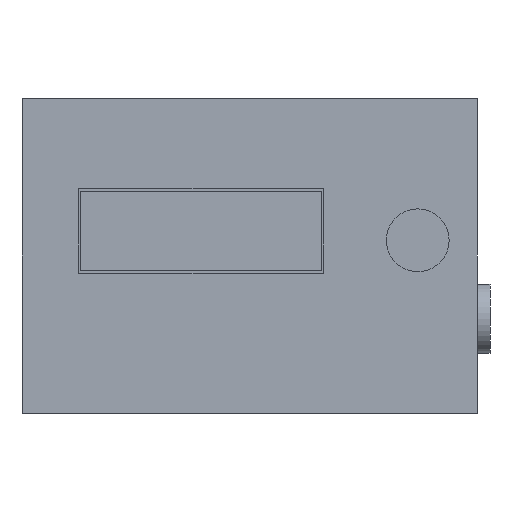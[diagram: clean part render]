
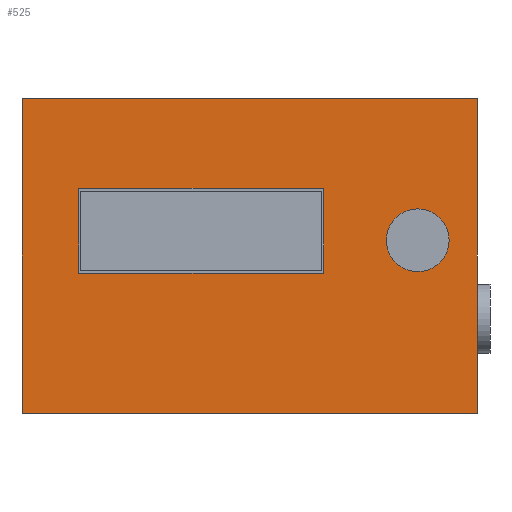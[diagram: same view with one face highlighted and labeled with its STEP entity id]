
A CAD part, front view. The second image highlights one B-rep face of the part: STEP entity #525.
In plain terms, the highlighted planar face has unit normal (0, -1, 0).
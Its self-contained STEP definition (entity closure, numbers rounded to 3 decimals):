
#295 = EDGE_CURVE('',#296,#298,#300,.T.);
#296 = VERTEX_POINT('',#297);
#297 = CARTESIAN_POINT('',(0.,0.,0.));
#298 = VERTEX_POINT('',#299);
#299 = CARTESIAN_POINT('',(0.,0.,100.));
#300 = SURFACE_CURVE('',#301,(#305,#317),.PCURVE_S1.);
#301 = LINE('',#302,#303);
#302 = CARTESIAN_POINT('',(0.,0.,0.));
#303 = VECTOR('',#304,1.);
#304 = DIRECTION('',(0.,0.,1.));
#305 = PCURVE('',#306,#311);
#306 = PLANE('',#307);
#307 = AXIS2_PLACEMENT_3D('',#308,#309,#310);
#308 = CARTESIAN_POINT('',(0.,0.,0.));
#309 = DIRECTION('',(1.,0.,0.));
#310 = DIRECTION('',(0.,0.,1.));
#311 = DEFINITIONAL_REPRESENTATION('',(#312),#316);
#312 = LINE('',#313,#314);
#313 = CARTESIAN_POINT('',(0.,0.));
#314 = VECTOR('',#315,1.);
#315 = DIRECTION('',(1.,0.));
#316 = ( GEOMETRIC_REPRESENTATION_CONTEXT(2) 
PARAMETRIC_REPRESENTATION_CONTEXT() REPRESENTATION_CONTEXT('2D SPACE',''
  ) );
#317 = PCURVE('',#318,#323);
#318 = PLANE('',#319);
#319 = AXIS2_PLACEMENT_3D('',#320,#321,#322);
#320 = CARTESIAN_POINT('',(0.,0.,0.));
#321 = DIRECTION('',(0.,1.,0.));
#322 = DIRECTION('',(0.,0.,1.));
#323 = DEFINITIONAL_REPRESENTATION('',(#324),#328);
#324 = LINE('',#325,#326);
#325 = CARTESIAN_POINT('',(0.,0.));
#326 = VECTOR('',#327,1.);
#327 = DIRECTION('',(1.,0.));
#328 = ( GEOMETRIC_REPRESENTATION_CONTEXT(2) 
PARAMETRIC_REPRESENTATION_CONTEXT() REPRESENTATION_CONTEXT('2D SPACE',''
  ) );
#346 = PLANE('',#347);
#347 = AXIS2_PLACEMENT_3D('',#348,#349,#350);
#348 = CARTESIAN_POINT('',(0.,0.,0.));
#349 = DIRECTION('',(0.,0.,1.));
#350 = DIRECTION('',(1.,0.,0.));
#400 = PLANE('',#401);
#401 = AXIS2_PLACEMENT_3D('',#402,#403,#404);
#402 = CARTESIAN_POINT('',(0.,0.,100.));
#403 = DIRECTION('',(0.,0.,1.));
#404 = DIRECTION('',(1.,0.,0.));
#525 = ADVANCED_FACE('',(#526,#601,#715),#318,.F.);
#526 = FACE_BOUND('',#527,.F.);
#527 = EDGE_LOOP('',(#528,#551,#552,#575));
#528 = ORIENTED_EDGE('',*,*,#529,.F.);
#529 = EDGE_CURVE('',#296,#530,#532,.T.);
#530 = VERTEX_POINT('',#531);
#531 = CARTESIAN_POINT('',(145.,0.,0.));
#532 = SURFACE_CURVE('',#533,(#537,#544),.PCURVE_S1.);
#533 = LINE('',#534,#535);
#534 = CARTESIAN_POINT('',(0.,0.,0.));
#535 = VECTOR('',#536,1.);
#536 = DIRECTION('',(1.,0.,0.));
#537 = PCURVE('',#318,#538);
#538 = DEFINITIONAL_REPRESENTATION('',(#539),#543);
#539 = LINE('',#540,#541);
#540 = CARTESIAN_POINT('',(0.,0.));
#541 = VECTOR('',#542,1.);
#542 = DIRECTION('',(0.,1.));
#543 = ( GEOMETRIC_REPRESENTATION_CONTEXT(2) 
PARAMETRIC_REPRESENTATION_CONTEXT() REPRESENTATION_CONTEXT('2D SPACE',''
  ) );
#544 = PCURVE('',#346,#545);
#545 = DEFINITIONAL_REPRESENTATION('',(#546),#550);
#546 = LINE('',#547,#548);
#547 = CARTESIAN_POINT('',(0.,0.));
#548 = VECTOR('',#549,1.);
#549 = DIRECTION('',(1.,0.));
#550 = ( GEOMETRIC_REPRESENTATION_CONTEXT(2) 
PARAMETRIC_REPRESENTATION_CONTEXT() REPRESENTATION_CONTEXT('2D SPACE',''
  ) );
#551 = ORIENTED_EDGE('',*,*,#295,.T.);
#552 = ORIENTED_EDGE('',*,*,#553,.T.);
#553 = EDGE_CURVE('',#298,#554,#556,.T.);
#554 = VERTEX_POINT('',#555);
#555 = CARTESIAN_POINT('',(145.,0.,100.));
#556 = SURFACE_CURVE('',#557,(#561,#568),.PCURVE_S1.);
#557 = LINE('',#558,#559);
#558 = CARTESIAN_POINT('',(0.,0.,100.));
#559 = VECTOR('',#560,1.);
#560 = DIRECTION('',(1.,0.,0.));
#561 = PCURVE('',#318,#562);
#562 = DEFINITIONAL_REPRESENTATION('',(#563),#567);
#563 = LINE('',#564,#565);
#564 = CARTESIAN_POINT('',(100.,0.));
#565 = VECTOR('',#566,1.);
#566 = DIRECTION('',(0.,1.));
#567 = ( GEOMETRIC_REPRESENTATION_CONTEXT(2) 
PARAMETRIC_REPRESENTATION_CONTEXT() REPRESENTATION_CONTEXT('2D SPACE',''
  ) );
#568 = PCURVE('',#400,#569);
#569 = DEFINITIONAL_REPRESENTATION('',(#570),#574);
#570 = LINE('',#571,#572);
#571 = CARTESIAN_POINT('',(0.,0.));
#572 = VECTOR('',#573,1.);
#573 = DIRECTION('',(1.,0.));
#574 = ( GEOMETRIC_REPRESENTATION_CONTEXT(2) 
PARAMETRIC_REPRESENTATION_CONTEXT() REPRESENTATION_CONTEXT('2D SPACE',''
  ) );
#575 = ORIENTED_EDGE('',*,*,#576,.F.);
#576 = EDGE_CURVE('',#530,#554,#577,.T.);
#577 = SURFACE_CURVE('',#578,(#582,#589),.PCURVE_S1.);
#578 = LINE('',#579,#580);
#579 = CARTESIAN_POINT('',(145.,0.,0.));
#580 = VECTOR('',#581,1.);
#581 = DIRECTION('',(0.,0.,1.));
#582 = PCURVE('',#318,#583);
#583 = DEFINITIONAL_REPRESENTATION('',(#584),#588);
#584 = LINE('',#585,#586);
#585 = CARTESIAN_POINT('',(0.,145.));
#586 = VECTOR('',#587,1.);
#587 = DIRECTION('',(1.,0.));
#588 = ( GEOMETRIC_REPRESENTATION_CONTEXT(2) 
PARAMETRIC_REPRESENTATION_CONTEXT() REPRESENTATION_CONTEXT('2D SPACE',''
  ) );
#589 = PCURVE('',#590,#595);
#590 = PLANE('',#591);
#591 = AXIS2_PLACEMENT_3D('',#592,#593,#594);
#592 = CARTESIAN_POINT('',(145.,0.,0.));
#593 = DIRECTION('',(1.,0.,0.));
#594 = DIRECTION('',(0.,0.,1.));
#595 = DEFINITIONAL_REPRESENTATION('',(#596),#600);
#596 = LINE('',#597,#598);
#597 = CARTESIAN_POINT('',(0.,0.));
#598 = VECTOR('',#599,1.);
#599 = DIRECTION('',(1.,0.));
#600 = ( GEOMETRIC_REPRESENTATION_CONTEXT(2) 
PARAMETRIC_REPRESENTATION_CONTEXT() REPRESENTATION_CONTEXT('2D SPACE',''
  ) );
#601 = FACE_BOUND('',#602,.F.);
#602 = EDGE_LOOP('',(#603,#633,#661,#689));
#603 = ORIENTED_EDGE('',*,*,#604,.F.);
#604 = EDGE_CURVE('',#605,#607,#609,.T.);
#605 = VERTEX_POINT('',#606);
#606 = CARTESIAN_POINT('',(18.,0.,71.5));
#607 = VERTEX_POINT('',#608);
#608 = CARTESIAN_POINT('',(96.,0.,71.5));
#609 = SURFACE_CURVE('',#610,(#614,#621),.PCURVE_S1.);
#610 = LINE('',#611,#612);
#611 = CARTESIAN_POINT('',(9.,0.,71.5));
#612 = VECTOR('',#613,1.);
#613 = DIRECTION('',(1.,0.,0.));
#614 = PCURVE('',#318,#615);
#615 = DEFINITIONAL_REPRESENTATION('',(#616),#620);
#616 = LINE('',#617,#618);
#617 = CARTESIAN_POINT('',(71.5,9.));
#618 = VECTOR('',#619,1.);
#619 = DIRECTION('',(0.,1.));
#620 = ( GEOMETRIC_REPRESENTATION_CONTEXT(2) 
PARAMETRIC_REPRESENTATION_CONTEXT() REPRESENTATION_CONTEXT('2D SPACE',''
  ) );
#621 = PCURVE('',#622,#627);
#622 = PLANE('',#623);
#623 = AXIS2_PLACEMENT_3D('',#624,#625,#626);
#624 = CARTESIAN_POINT('',(18.,-0.1,71.5));
#625 = DIRECTION('',(0.,0.,1.));
#626 = DIRECTION('',(1.,0.,0.));
#627 = DEFINITIONAL_REPRESENTATION('',(#628),#632);
#628 = LINE('',#629,#630);
#629 = CARTESIAN_POINT('',(-9.,0.1));
#630 = VECTOR('',#631,1.);
#631 = DIRECTION('',(1.,0.));
#632 = ( GEOMETRIC_REPRESENTATION_CONTEXT(2) 
PARAMETRIC_REPRESENTATION_CONTEXT() REPRESENTATION_CONTEXT('2D SPACE',''
  ) );
#633 = ORIENTED_EDGE('',*,*,#634,.T.);
#634 = EDGE_CURVE('',#605,#635,#637,.T.);
#635 = VERTEX_POINT('',#636);
#636 = CARTESIAN_POINT('',(18.,0.,44.5));
#637 = SURFACE_CURVE('',#638,(#642,#649),.PCURVE_S1.);
#638 = LINE('',#639,#640);
#639 = CARTESIAN_POINT('',(18.,0.,22.25));
#640 = VECTOR('',#641,1.);
#641 = DIRECTION('',(0.,0.,-1.));
#642 = PCURVE('',#318,#643);
#643 = DEFINITIONAL_REPRESENTATION('',(#644),#648);
#644 = LINE('',#645,#646);
#645 = CARTESIAN_POINT('',(22.25,18.));
#646 = VECTOR('',#647,1.);
#647 = DIRECTION('',(-1.,0.));
#648 = ( GEOMETRIC_REPRESENTATION_CONTEXT(2) 
PARAMETRIC_REPRESENTATION_CONTEXT() REPRESENTATION_CONTEXT('2D SPACE',''
  ) );
#649 = PCURVE('',#650,#655);
#650 = PLANE('',#651);
#651 = AXIS2_PLACEMENT_3D('',#652,#653,#654);
#652 = CARTESIAN_POINT('',(18.,-0.1,44.5));
#653 = DIRECTION('',(1.,0.,0.));
#654 = DIRECTION('',(0.,0.,1.));
#655 = DEFINITIONAL_REPRESENTATION('',(#656),#660);
#656 = LINE('',#657,#658);
#657 = CARTESIAN_POINT('',(-22.25,-0.1));
#658 = VECTOR('',#659,1.);
#659 = DIRECTION('',(-1.,0.));
#660 = ( GEOMETRIC_REPRESENTATION_CONTEXT(2) 
PARAMETRIC_REPRESENTATION_CONTEXT() REPRESENTATION_CONTEXT('2D SPACE',''
  ) );
#661 = ORIENTED_EDGE('',*,*,#662,.T.);
#662 = EDGE_CURVE('',#635,#663,#665,.T.);
#663 = VERTEX_POINT('',#664);
#664 = CARTESIAN_POINT('',(96.,0.,44.5));
#665 = SURFACE_CURVE('',#666,(#670,#677),.PCURVE_S1.);
#666 = LINE('',#667,#668);
#667 = CARTESIAN_POINT('',(9.,0.,44.5));
#668 = VECTOR('',#669,1.);
#669 = DIRECTION('',(1.,0.,0.));
#670 = PCURVE('',#318,#671);
#671 = DEFINITIONAL_REPRESENTATION('',(#672),#676);
#672 = LINE('',#673,#674);
#673 = CARTESIAN_POINT('',(44.5,9.));
#674 = VECTOR('',#675,1.);
#675 = DIRECTION('',(0.,1.));
#676 = ( GEOMETRIC_REPRESENTATION_CONTEXT(2) 
PARAMETRIC_REPRESENTATION_CONTEXT() REPRESENTATION_CONTEXT('2D SPACE',''
  ) );
#677 = PCURVE('',#678,#683);
#678 = PLANE('',#679);
#679 = AXIS2_PLACEMENT_3D('',#680,#681,#682);
#680 = CARTESIAN_POINT('',(18.,-0.1,44.5));
#681 = DIRECTION('',(0.,0.,1.));
#682 = DIRECTION('',(1.,0.,0.));
#683 = DEFINITIONAL_REPRESENTATION('',(#684),#688);
#684 = LINE('',#685,#686);
#685 = CARTESIAN_POINT('',(-9.,0.1));
#686 = VECTOR('',#687,1.);
#687 = DIRECTION('',(1.,0.));
#688 = ( GEOMETRIC_REPRESENTATION_CONTEXT(2) 
PARAMETRIC_REPRESENTATION_CONTEXT() REPRESENTATION_CONTEXT('2D SPACE',''
  ) );
#689 = ORIENTED_EDGE('',*,*,#690,.F.);
#690 = EDGE_CURVE('',#607,#663,#691,.T.);
#691 = SURFACE_CURVE('',#692,(#696,#703),.PCURVE_S1.);
#692 = LINE('',#693,#694);
#693 = CARTESIAN_POINT('',(96.,0.,22.25));
#694 = VECTOR('',#695,1.);
#695 = DIRECTION('',(0.,0.,-1.));
#696 = PCURVE('',#318,#697);
#697 = DEFINITIONAL_REPRESENTATION('',(#698),#702);
#698 = LINE('',#699,#700);
#699 = CARTESIAN_POINT('',(22.25,96.));
#700 = VECTOR('',#701,1.);
#701 = DIRECTION('',(-1.,0.));
#702 = ( GEOMETRIC_REPRESENTATION_CONTEXT(2) 
PARAMETRIC_REPRESENTATION_CONTEXT() REPRESENTATION_CONTEXT('2D SPACE',''
  ) );
#703 = PCURVE('',#704,#709);
#704 = PLANE('',#705);
#705 = AXIS2_PLACEMENT_3D('',#706,#707,#708);
#706 = CARTESIAN_POINT('',(96.,-0.1,44.5));
#707 = DIRECTION('',(1.,0.,0.));
#708 = DIRECTION('',(0.,0.,1.));
#709 = DEFINITIONAL_REPRESENTATION('',(#710),#714);
#710 = LINE('',#711,#712);
#711 = CARTESIAN_POINT('',(-22.25,-0.1));
#712 = VECTOR('',#713,1.);
#713 = DIRECTION('',(-1.,0.));
#714 = ( GEOMETRIC_REPRESENTATION_CONTEXT(2) 
PARAMETRIC_REPRESENTATION_CONTEXT() REPRESENTATION_CONTEXT('2D SPACE',''
  ) );
#715 = FACE_BOUND('',#716,.F.);
#716 = EDGE_LOOP('',(#717));
#717 = ORIENTED_EDGE('',*,*,#718,.F.);
#718 = EDGE_CURVE('',#719,#719,#721,.T.);
#719 = VERTEX_POINT('',#720);
#720 = CARTESIAN_POINT('',(126.,0.,58.6));
#721 = SURFACE_CURVE('',#722,(#727,#734),.PCURVE_S1.);
#722 = CIRCLE('',#723,3.6);
#723 = AXIS2_PLACEMENT_3D('',#724,#725,#726);
#724 = CARTESIAN_POINT('',(126.,0.,55.));
#725 = DIRECTION('',(0.,1.,0.));
#726 = DIRECTION('',(0.,-0.,1.));
#727 = PCURVE('',#318,#728);
#728 = DEFINITIONAL_REPRESENTATION('',(#729),#733);
#729 = CIRCLE('',#730,3.6);
#730 = AXIS2_PLACEMENT_2D('',#731,#732);
#731 = CARTESIAN_POINT('',(55.,126.));
#732 = DIRECTION('',(1.,0.));
#733 = ( GEOMETRIC_REPRESENTATION_CONTEXT(2) 
PARAMETRIC_REPRESENTATION_CONTEXT() REPRESENTATION_CONTEXT('2D SPACE',''
  ) );
#734 = PCURVE('',#735,#740);
#735 = CYLINDRICAL_SURFACE('',#736,3.6);
#736 = AXIS2_PLACEMENT_3D('',#737,#738,#739);
#737 = CARTESIAN_POINT('',(126.,-0.1,55.));
#738 = DIRECTION('',(0.,1.,0.));
#739 = DIRECTION('',(0.,-0.,1.));
#740 = DEFINITIONAL_REPRESENTATION('',(#741),#745);
#741 = LINE('',#742,#743);
#742 = CARTESIAN_POINT('',(0.,0.1));
#743 = VECTOR('',#744,1.);
#744 = DIRECTION('',(1.,0.));
#745 = ( GEOMETRIC_REPRESENTATION_CONTEXT(2) 
PARAMETRIC_REPRESENTATION_CONTEXT() REPRESENTATION_CONTEXT('2D SPACE',''
  ) );
